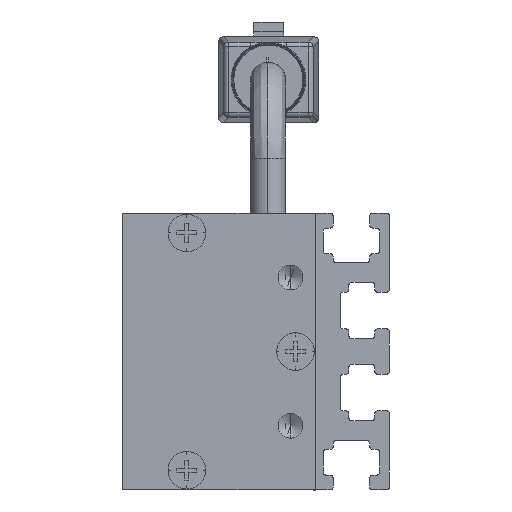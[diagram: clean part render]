
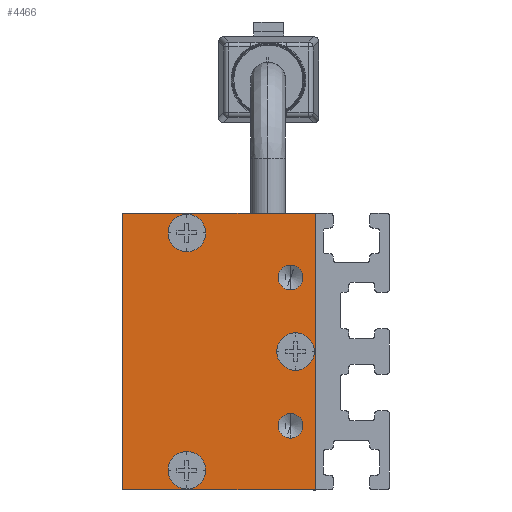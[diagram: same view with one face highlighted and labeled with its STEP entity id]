
A CAD part, left-side view. The second image highlights one B-rep face of the part: STEP entity #4466.
In plain terms, the highlighted planar face has unit normal (-1, 0, 0) as drawn and (0, 0, -1) by its records, which use the part's own axes.
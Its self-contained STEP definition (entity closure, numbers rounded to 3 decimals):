
#84 = LINE ( 'NONE', #3353, #518 ) ;
#86 = EDGE_LOOP ( 'NONE', ( #4427, #13761, #7676, #12267 ) ) ;
#102 = DIRECTION ( 'NONE',  ( 0., 0., -1. ) ) ;
#156 = CARTESIAN_POINT ( 'NONE',  ( 14., 19.5, -2.5 ) ) ;
#171 = DIRECTION ( 'NONE',  ( 0., 0., -1. ) ) ;
#366 = AXIS2_PLACEMENT_3D ( 'NONE', #13624, #12260, #3901 ) ;
#382 = EDGE_CURVE ( 'NONE', #7310, #12880, #6642, .T. ) ;
#518 = VECTOR ( 'NONE', #1011, 1000. ) ;
#919 = EDGE_LOOP ( 'NONE', ( #6560, #12435 ) ) ;
#922 = EDGE_CURVE ( 'NONE', #12828, #4341, #9961, .T. ) ;
#1011 = DIRECTION ( 'NONE',  ( 0., 1., 0. ) ) ;
#1095 = EDGE_CURVE ( 'NONE', #10136, #9587, #10188, .T. ) ;
#1260 = CIRCLE ( 'NONE', #10102, 1.25 ) ;
#1289 = CIRCLE ( 'NONE', #7426, 1.9 ) ;
#1326 = DIRECTION ( 'NONE',  ( -1., 0., 0. ) ) ;
#1428 = ORIENTED_EDGE ( 'NONE', *, *, #4104, .F. ) ;
#1609 = VERTEX_POINT ( 'NONE', #12676 ) ;
#1649 = CIRCLE ( 'NONE', #13886, 1.9 ) ;
#2015 = CARTESIAN_POINT ( 'NONE',  ( 0., 2., -2.5 ) ) ;
#2082 = DIRECTION ( 'NONE',  ( 0., 0., -1. ) ) ;
#2174 = DIRECTION ( 'NONE',  ( -1., 0., 0. ) ) ;
#2374 = DIRECTION ( 'NONE',  ( -1., 0., 0. ) ) ;
#2547 = DIRECTION ( 'NONE',  ( 0., 0., -1. ) ) ;
#2637 = VECTOR ( 'NONE', #5926, 1000. ) ;
#2658 = VERTEX_POINT ( 'NONE', #156 ) ;
#2672 = EDGE_LOOP ( 'NONE', ( #1428, #10568 ) ) ;
#2756 = EDGE_CURVE ( 'NONE', #4112, #1609, #1260, .T. ) ;
#2763 = FACE_BOUND ( 'NONE', #10623, .T. ) ;
#2917 = CARTESIAN_POINT ( 'NONE',  ( 8.75, 2.5, -2.5 ) ) ;
#2964 = DIRECTION ( 'NONE',  ( -1., 0., 0. ) ) ;
#3248 = AXIS2_PLACEMENT_3D ( 'NONE', #3568, #171, #4711 ) ;
#3272 = AXIS2_PLACEMENT_3D ( 'NONE', #4816, #2547, #10134 ) ;
#3280 = EDGE_CURVE ( 'NONE', #12880, #13739, #9119, .T. ) ;
#3353 = CARTESIAN_POINT ( 'NONE',  ( 14., 19.5, -2.5 ) ) ;
#3568 = CARTESIAN_POINT ( 'NONE',  ( -12., 13., -2.5 ) ) ;
#3600 = PLANE ( 'NONE',  #366 ) ;
#3837 = CARTESIAN_POINT ( 'NONE',  ( -1.9, 2., -2.5 ) ) ;
#3901 = DIRECTION ( 'NONE',  ( -1., 0., 0. ) ) ;
#4012 = CIRCLE ( 'NONE', #7843, 1.25 ) ;
#4104 = EDGE_CURVE ( 'NONE', #1609, #4112, #4012, .T. ) ;
#4112 = VERTEX_POINT ( 'NONE', #2917 ) ;
#4123 = CARTESIAN_POINT ( 'NONE',  ( 13.9, 13., -2.5 ) ) ;
#4312 = CARTESIAN_POINT ( 'NONE',  ( 14., 0., -2.5 ) ) ;
#4341 = VERTEX_POINT ( 'NONE', #4890 ) ;
#4365 = AXIS2_PLACEMENT_3D ( 'NONE', #11050, #12331, #1326 ) ;
#4427 = ORIENTED_EDGE ( 'NONE', *, *, #9351, .F. ) ;
#4466 = ADVANCED_FACE ( 'NONE', ( #11336, #8155, #2763, #7091, #6028, #10352 ), #3600, .T. ) ;
#4634 = VERTEX_POINT ( 'NONE', #12074 ) ;
#4711 = DIRECTION ( 'NONE',  ( -1., 0., 0. ) ) ;
#4733 = DIRECTION ( 'NONE',  ( -1., 0., 0. ) ) ;
#4816 = CARTESIAN_POINT ( 'NONE',  ( -12., 13., -2.5 ) ) ;
#4867 = CARTESIAN_POINT ( 'NONE',  ( 14., 0., -2.5 ) ) ;
#4890 = CARTESIAN_POINT ( 'NONE',  ( -6.25, 2.5, -2.5 ) ) ;
#5040 = DIRECTION ( 'NONE',  ( -1., 0., 0. ) ) ;
#5185 = EDGE_CURVE ( 'NONE', #10663, #13562, #12571, .T. ) ;
#5248 = EDGE_CURVE ( 'NONE', #2658, #7310, #12624, .T. ) ;
#5348 = DIRECTION ( 'NONE',  ( -1., 0., 0. ) ) ;
#5717 = EDGE_LOOP ( 'NONE', ( #9457, #10636 ) ) ;
#5740 = CARTESIAN_POINT ( 'NONE',  ( 12., 13., -2.5 ) ) ;
#5926 = DIRECTION ( 'NONE',  ( 1., 0., 0. ) ) ;
#6028 = FACE_BOUND ( 'NONE', #919, .T. ) ;
#6090 = CARTESIAN_POINT ( 'NONE',  ( -13.9, 13., -2.5 ) ) ;
#6352 = AXIS2_PLACEMENT_3D ( 'NONE', #12096, #8902, #2374 ) ;
#6466 = EDGE_CURVE ( 'NONE', #4634, #8601, #12781, .T. ) ;
#6560 = ORIENTED_EDGE ( 'NONE', *, *, #922, .F. ) ;
#6642 = LINE ( 'NONE', #12027, #13813 ) ;
#6729 = EDGE_CURVE ( 'NONE', #8601, #4634, #1649, .T. ) ;
#6781 = EDGE_CURVE ( 'NONE', #4341, #12828, #13424, .T. ) ;
#7042 = CARTESIAN_POINT ( 'NONE',  ( 12., 13., -2.5 ) ) ;
#7050 = EDGE_LOOP ( 'NONE', ( #10507, #7115 ) ) ;
#7091 = FACE_BOUND ( 'NONE', #2672, .T. ) ;
#7115 = ORIENTED_EDGE ( 'NONE', *, *, #6729, .F. ) ;
#7300 = AXIS2_PLACEMENT_3D ( 'NONE', #7042, #10308, #12847 ) ;
#7310 = VERTEX_POINT ( 'NONE', #13176 ) ;
#7426 = AXIS2_PLACEMENT_3D ( 'NONE', #13687, #7434, #2964 ) ;
#7434 = DIRECTION ( 'NONE',  ( 0., 0., -1. ) ) ;
#7560 = CIRCLE ( 'NONE', #3248, 1.9 ) ;
#7663 = EDGE_CURVE ( 'NONE', #13562, #10663, #7560, .T. ) ;
#7676 = ORIENTED_EDGE ( 'NONE', *, *, #382, .F. ) ;
#7843 = AXIS2_PLACEMENT_3D ( 'NONE', #13844, #8597, #10660 ) ;
#7880 = CARTESIAN_POINT ( 'NONE',  ( -14., 0., -2.5 ) ) ;
#7906 = DIRECTION ( 'NONE',  ( 0., -1., 0. ) ) ;
#8155 = FACE_BOUND ( 'NONE', #5717, .T. ) ;
#8176 = ORIENTED_EDGE ( 'NONE', *, *, #12286, .F. ) ;
#8597 = DIRECTION ( 'NONE',  ( 0., 0., -1. ) ) ;
#8601 = VERTEX_POINT ( 'NONE', #4123 ) ;
#8837 = CARTESIAN_POINT ( 'NONE',  ( 7.5, 2.5, -2.5 ) ) ;
#8902 = DIRECTION ( 'NONE',  ( 0., 0., -1. ) ) ;
#9052 = DIRECTION ( 'NONE',  ( 0., 0., -1. ) ) ;
#9119 = LINE ( 'NONE', #4867, #2637 ) ;
#9351 = EDGE_CURVE ( 'NONE', #13739, #2658, #84, .T. ) ;
#9457 = ORIENTED_EDGE ( 'NONE', *, *, #7663, .F. ) ;
#9587 = VERTEX_POINT ( 'NONE', #3837 ) ;
#9961 = CIRCLE ( 'NONE', #6352, 1.25 ) ;
#10102 = AXIS2_PLACEMENT_3D ( 'NONE', #8837, #102, #2174 ) ;
#10134 = DIRECTION ( 'NONE',  ( -1., 0., 0. ) ) ;
#10136 = VERTEX_POINT ( 'NONE', #12776 ) ;
#10188 = CIRCLE ( 'NONE', #10868, 1.9 ) ;
#10308 = DIRECTION ( 'NONE',  ( 0., 0., -1. ) ) ;
#10352 = FACE_OUTER_BOUND ( 'NONE', #86, .T. ) ;
#10427 = CARTESIAN_POINT ( 'NONE',  ( -14., 19.5, -2.5 ) ) ;
#10507 = ORIENTED_EDGE ( 'NONE', *, *, #6466, .F. ) ;
#10568 = ORIENTED_EDGE ( 'NONE', *, *, #2756, .F. ) ;
#10623 = EDGE_LOOP ( 'NONE', ( #8176, #11445 ) ) ;
#10636 = ORIENTED_EDGE ( 'NONE', *, *, #5185, .F. ) ;
#10660 = DIRECTION ( 'NONE',  ( -1., 0., 0. ) ) ;
#10663 = VERTEX_POINT ( 'NONE', #10688 ) ;
#10688 = CARTESIAN_POINT ( 'NONE',  ( -10.1, 13., -2.5 ) ) ;
#10706 = VECTOR ( 'NONE', #5040, 1000. ) ;
#10868 = AXIS2_PLACEMENT_3D ( 'NONE', #2015, #2082, #5348 ) ;
#11050 = CARTESIAN_POINT ( 'NONE',  ( -7.5, 2.5, -2.5 ) ) ;
#11336 = FACE_BOUND ( 'NONE', #7050, .T. ) ;
#11445 = ORIENTED_EDGE ( 'NONE', *, *, #1095, .F. ) ;
#12027 = CARTESIAN_POINT ( 'NONE',  ( -14., 0., -2.5 ) ) ;
#12074 = CARTESIAN_POINT ( 'NONE',  ( 10.1, 13., -2.5 ) ) ;
#12096 = CARTESIAN_POINT ( 'NONE',  ( -7.5, 2.5, -2.5 ) ) ;
#12260 = DIRECTION ( 'NONE',  ( 0., 0., -1. ) ) ;
#12267 = ORIENTED_EDGE ( 'NONE', *, *, #5248, .F. ) ;
#12286 = EDGE_CURVE ( 'NONE', #9587, #10136, #1289, .T. ) ;
#12331 = DIRECTION ( 'NONE',  ( 0., 0., -1. ) ) ;
#12435 = ORIENTED_EDGE ( 'NONE', *, *, #6781, .F. ) ;
#12571 = CIRCLE ( 'NONE', #3272, 1.9 ) ;
#12624 = LINE ( 'NONE', #10427, #10706 ) ;
#12676 = CARTESIAN_POINT ( 'NONE',  ( 6.25, 2.5, -2.5 ) ) ;
#12776 = CARTESIAN_POINT ( 'NONE',  ( 1.9, 2., -2.5 ) ) ;
#12781 = CIRCLE ( 'NONE', #7300, 1.9 ) ;
#12828 = VERTEX_POINT ( 'NONE', #13267 ) ;
#12847 = DIRECTION ( 'NONE',  ( -1., 0., 0. ) ) ;
#12880 = VERTEX_POINT ( 'NONE', #7880 ) ;
#13176 = CARTESIAN_POINT ( 'NONE',  ( -14., 19.5, -2.5 ) ) ;
#13267 = CARTESIAN_POINT ( 'NONE',  ( -8.75, 2.5, -2.5 ) ) ;
#13424 = CIRCLE ( 'NONE', #4365, 1.25 ) ;
#13562 = VERTEX_POINT ( 'NONE', #6090 ) ;
#13624 = CARTESIAN_POINT ( 'NONE',  ( 0., 0., -2.5 ) ) ;
#13687 = CARTESIAN_POINT ( 'NONE',  ( 0., 2., -2.5 ) ) ;
#13739 = VERTEX_POINT ( 'NONE', #4312 ) ;
#13761 = ORIENTED_EDGE ( 'NONE', *, *, #3280, .F. ) ;
#13813 = VECTOR ( 'NONE', #7906, 1000. ) ;
#13844 = CARTESIAN_POINT ( 'NONE',  ( 7.5, 2.5, -2.5 ) ) ;
#13886 = AXIS2_PLACEMENT_3D ( 'NONE', #5740, #9052, #4733 ) ;
